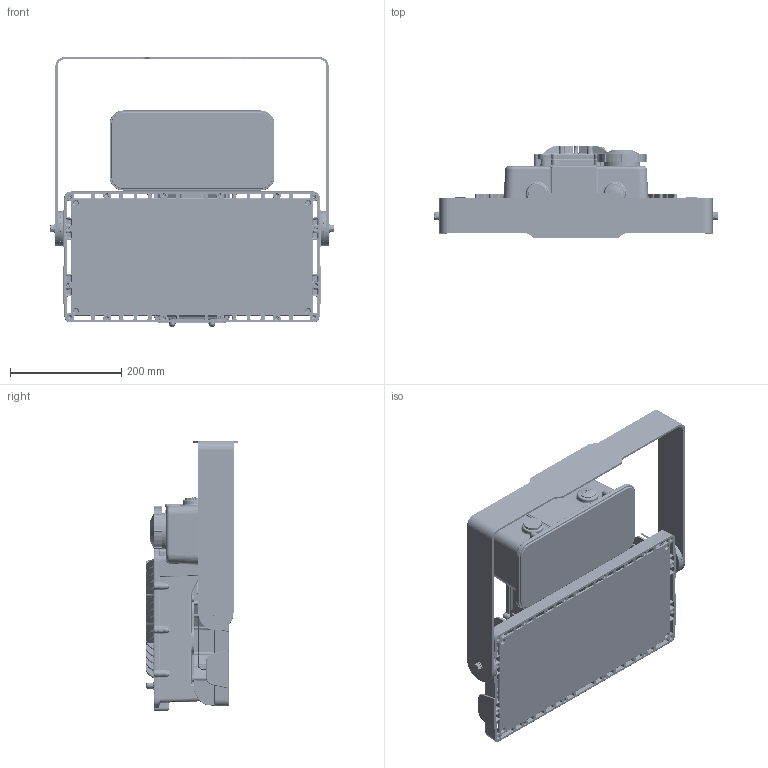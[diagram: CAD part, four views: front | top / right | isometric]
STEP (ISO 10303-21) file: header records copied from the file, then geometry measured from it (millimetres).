
FILE_DESCRIPTION((''),'2;1');
FILE_NAME('F1XNXXXXSFNXXN_SW','2021-04-12T11:41:04',('gatsonnb'),(''),'CREO PARAMETRIC BY PTC INC, 2019080','CREO PARAMETRIC BY PTC INC, 2019080','');
FILE_SCHEMA(('CONFIG_CONTROL_DESIGN'));
Products named in the file (1): F1XNXXXXSFNXXN_SW
Bounding box: 508.79 x 166.88 x 485.22 mm (x, y, z)
Volume: 8207882.2 mm3; surface area: 1187605.6 mm2
Topology: 2 solids, 104 shells, 13587 faces, 31280 edges, 17793 vertices
Faces by surface type: bspline 5420, cylinder 3300, plane 1991, cone 1300, torus 1082, sphere 494
Entity records: 746578 total; most frequent: CARTESIAN_POINT 485141, ORIENTED_EDGE 62214, DIRECTION 43828, EDGE_CURVE 31107, AXIS2_PLACEMENT_3D 18028, VERTEX_POINT 17793, EDGE_LOOP 13784, FACE_OUTER_BOUND 13587
